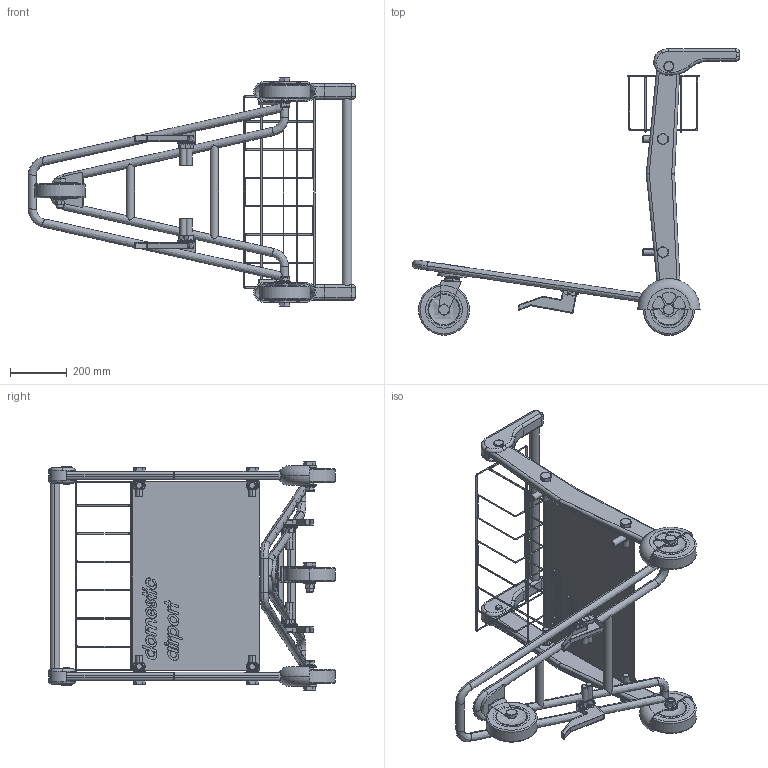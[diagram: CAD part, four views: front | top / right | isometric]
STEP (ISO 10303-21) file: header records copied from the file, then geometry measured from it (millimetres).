
FILE_DESCRIPTION (( 'STEP AP203' ), '1' );
FILE_NAME ('Airport Trolley.STEP', '2011-07-08T09:09:52', ( '' ), ( '' ), 'SwSTEP 2.0', 'SolidWorks 2011', '' );
FILE_SCHEMA (( 'CONFIG_CONTROL_DESIGN' ));
Length unit declared in the file: millimetre
Products named in the file (26): Airport Trolley; Clevis Pin Headed_ISO_PreviewCfg; Lock_Left; Lock_Right; Basket; Handle Bar; Handle_Left; Handle_Right; Hex Screw GradeC_ISO_PreviewCfg; Advert Board; ''L'' Bracket; Support_Left; Support_Right; Back Wheel; Wheel Casing; Luggage Frame_Default<As Machined>; Castor With Bracket; Rubber Top; Hex Flange Nut GradeA_ISO_PreviewCfg; Hex Bolt GradeAB_ISO_PreviewCfg; Bracket Top; Castor Bracket; Castor Wheel; Rubber Wheel; Inside 1; Inside 2
Assembly tree (56 placements, depth 4):
  Airport Trolley
    Hex Screw GradeC_ISO_PreviewCfg  x8
    Hex Flange Nut GradeA_ISO_PreviewCfg  x12
    ''L'' Bracket  x4
    Hex Bolt GradeAB_ISO_PreviewCfg  x4
    Lock_Left
    Clevis Pin Headed_ISO_PreviewCfg  x2
    Basket
    Luggage Frame_Default<As Machined>
    Support_Right
    Handle Bar
    Handle_Left
    Handle_Right
    Support_Left
    Lock_Right
    Advert Board
    Back Wheel  x2
      Hex Flange Nut GradeA_ISO_PreviewCfg
      Hex Bolt GradeAB_ISO_PreviewCfg
      Wheel Casing
      Castor Wheel
        Rubber Wheel
        Inside 2
        Inside 1
    Castor With Bracket
      Hex Flange Nut GradeA_ISO_PreviewCfg
      Hex Bolt GradeAB_ISO_PreviewCfg
      Bracket Top
      Rubber Top
      Castor Bracket
      Castor Wheel
        Rubber Wheel
        Inside 2
        Inside 1
Bounding box: 1156.8 x 1012.5 x 810 mm (x, y, z)
Volume: 12202672 mm3; surface area: 3276650 mm2
Topology: 62 solids, 62 shells, 2134 faces, 5023 edges, 3053 vertices
Faces by surface type: plane 741, cylinder 539, bspline 340, cone 308, torus 190, sphere 16
Entity records: 53155 total; most frequent: CARTESIAN_POINT 23197, ORIENTED_EDGE 5704, DIRECTION 5125, EDGE_CURVE 2852, AXIS2_PLACEMENT_3D 1907, VERTEX_POINT 1793, LINE 1311, VECTOR 1311
